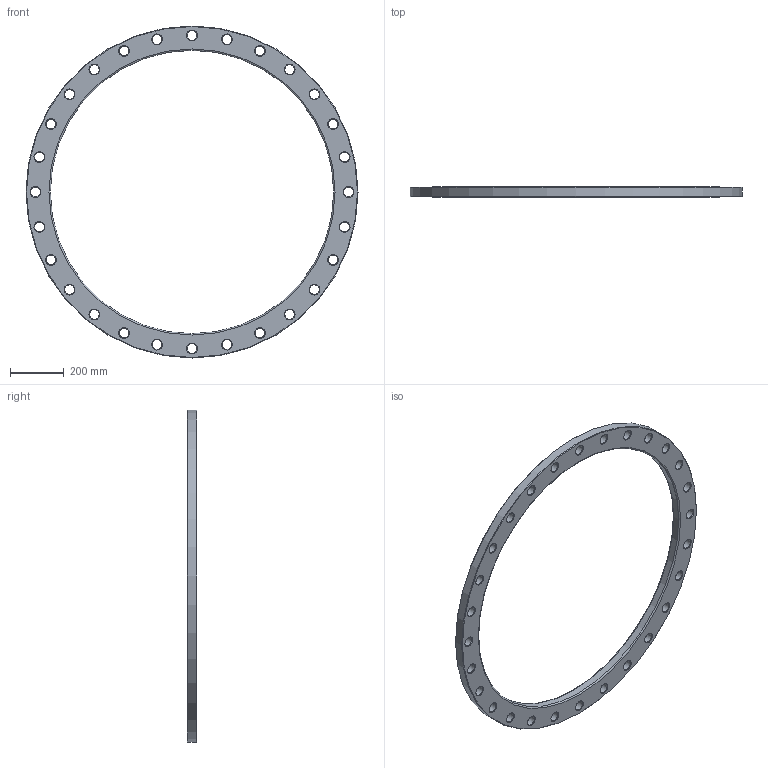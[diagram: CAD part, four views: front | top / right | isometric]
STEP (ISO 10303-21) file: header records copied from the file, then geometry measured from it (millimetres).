
FILE_DESCRIPTION(/* description */ ('Unknown'),/* implementation_level */ '2;1');
FILE_NAME(/* name */ 'FZ1000B',/* time_stamp */ '2021-03-15T11:09:43+01:00',/* author */ ('Unknown'),/* organization */ ('Unknown'),/* preprocessor_version */ 'ST-DEVELOPER v16.7',/* originating_system */ 'Solid Edge',/* authorisation */ 'Unknown');
FILE_SCHEMA (('AUTOMOTIVE_DESIGN {1 0 10303 214 3 1 1}'));
Length unit declared in the file: millimetre
Products named in the file (1): FZ1000B
Bounding box: 1230 x 36 x 1230 mm (x, y, z)
Volume: 10513721.3 mm3; surface area: 929188.7 mm2
Topology: 1 solids, 1 shells, 92 faces, 294 edges, 204 vertices
Faces by surface type: cone 58, cylinder 30, plane 2, torus 2
Full cylindrical faces by diameter (mm): 36 x28, 1050 x1, 1230 x1
Entity records: 2270 total; most frequent: DIRECTION 426, CARTESIAN_POINT 333, ORIENTED_EDGE 240, EDGE_LOOP 240, FACE_BOUND 240, AXIS2_PLACEMENT_3D 213, EDGE_CURVE 120, VERTEX_POINT 120
